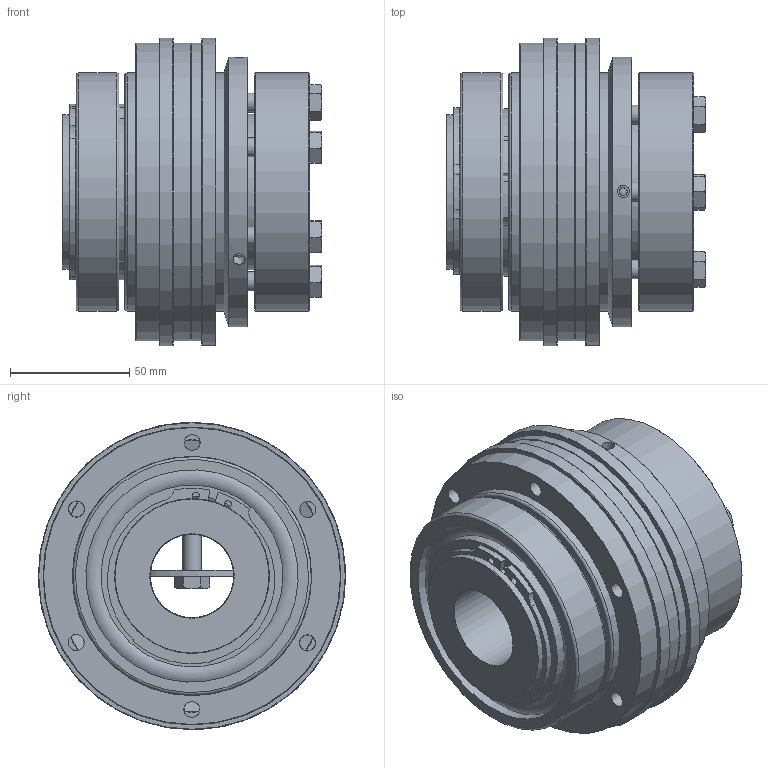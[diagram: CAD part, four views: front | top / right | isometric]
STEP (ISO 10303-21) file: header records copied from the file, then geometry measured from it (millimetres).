
FILE_DESCRIPTION( ( 'Unknown' ), '1' );
FILE_NAME( 'C:/Dokumente und Einstellungen/Sven/Desktop/hp kbk/KBK LL-A-500.stp', 'Unknown', ( 'Unknown' ), ( 'Unknown' ), 'XStep 1.0', 'Unknown', ' ' );
FILE_SCHEMA( ( 'automotive_design' ) );
Length unit declared in the file: millimetre
Products named in the file (12): Assem1; Assem2; ball_bearing_-_6013_0_01; ball_bearing_-_6013_0_02; ball_bearing_-_6013_0_03; Stellring 500; Druckring 500; a_65; Druckring L-A-500; din_en_24017_m8x35; KBK LL-A-500 Grundkörper; Flansch 500
Bounding box: 109 x 129 x 129 mm (x, y, z)
Volume: 1507375.1 mm3; surface area: 442030.1 mm2
Topology: 32 solids, 32 shells, 526 faces, 1104 edges, 703 vertices
Faces by surface type: plane 207, cylinder 164, cone 116, torus 39
Full cylindrical faces by diameter (mm): 3 x6, 3.242 x6, 5.1 x6, 5.2 x6, 6.647 x24, 8 x7, 8.5 x12, 11.63 x7, 35 x2, 62 x4, 65 x10, 65.111 x2, 76.3 x8, 86 x4, 89.1 x8, 91 x2, 100 x8, 104.5 x2, 113 x2, 114 x2, 125 x4, 129 x2
Entity records: 4965 total; most frequent: CARTESIAN_POINT 1126, DIRECTION 832, ORIENTED_EDGE 540, AXIS2_PLACEMENT_3D 386, EDGE_LOOP 334, EDGE_CURVE 270, FACE_OUTER_BOUND 246, VERTEX_POINT 222
